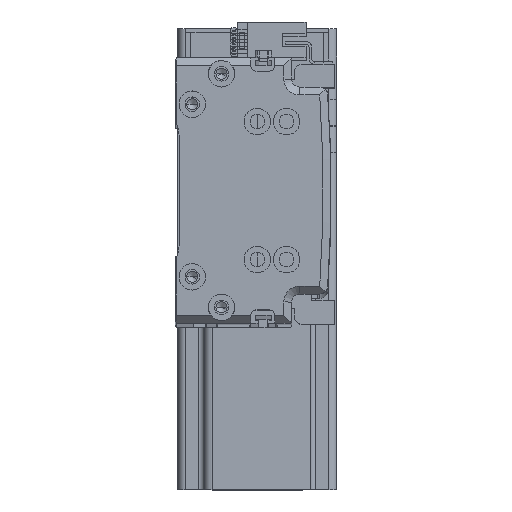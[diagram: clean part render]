
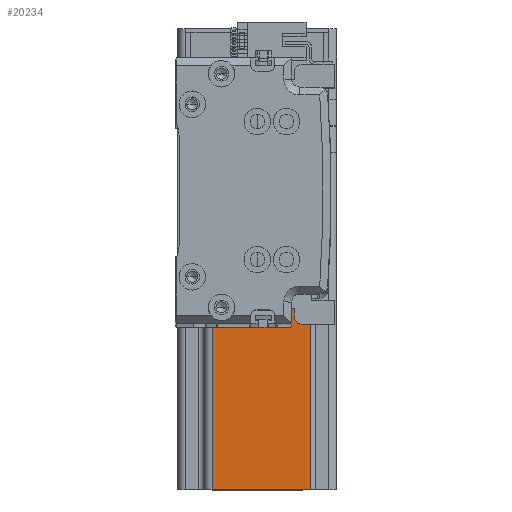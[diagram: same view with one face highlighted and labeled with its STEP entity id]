
A CAD part, top view. The second image highlights one B-rep face of the part: STEP entity #20234.
In plain terms, the highlighted planar face has unit normal (0, 0, 1) as drawn and (-1, 0, 0) by its records, which use the part's own axes.
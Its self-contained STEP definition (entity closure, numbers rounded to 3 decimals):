
#417 = LINE ( 'NONE', #1647, #20413 ) ;
#864 = EDGE_CURVE ( 'NONE', #5104, #26442, #15951, .T. ) ;
#1102 = VECTOR ( 'NONE', #12483, 1000. ) ;
#1307 = VERTEX_POINT ( 'NONE', #39444 ) ;
#1452 = PLANE ( 'NONE',  #21290 ) ;
#1647 = CARTESIAN_POINT ( 'NONE',  ( -30., 27., 137. ) ) ;
#1879 = ORIENTED_EDGE ( 'NONE', *, *, #33825, .T. ) ;
#2660 = EDGE_CURVE ( 'NONE', #26442, #4384, #33048, .T. ) ;
#3274 = DIRECTION ( 'NONE',  ( 0., 0., 1. ) ) ;
#3288 = VERTEX_POINT ( 'NONE', #26020 ) ;
#3856 = DIRECTION ( 'NONE',  ( 0., 1., 0. ) ) ;
#4384 = VERTEX_POINT ( 'NONE', #29023 ) ;
#4872 = ORIENTED_EDGE ( 'NONE', *, *, #6053, .T. ) ;
#5104 = VERTEX_POINT ( 'NONE', #38355 ) ;
#6053 = EDGE_CURVE ( 'NONE', #37098, #3288, #417, .T. ) ;
#9775 = VECTOR ( 'NONE', #21205, 1000. ) ;
#11327 = FACE_OUTER_BOUND ( 'NONE', #21457, .T. ) ;
#11633 = EDGE_CURVE ( 'NONE', #34575, #4384, #21709, .T. ) ;
#11664 = VECTOR ( 'NONE', #20240, 1000. ) ;
#12483 = DIRECTION ( 'NONE',  ( 0., -1., 0. ) ) ;
#15315 = CARTESIAN_POINT ( 'NONE',  ( -30., 20., 10. ) ) ;
#15951 = LINE ( 'NONE', #15315, #25366 ) ;
#16225 = CARTESIAN_POINT ( 'NONE',  ( -30., -30., 10. ) ) ;
#17187 = CARTESIAN_POINT ( 'NONE',  ( -30., -17., 137. ) ) ;
#17792 = CARTESIAN_POINT ( 'NONE',  ( -30., -17., 10. ) ) ;
#18497 = ORIENTED_EDGE ( 'NONE', *, *, #11633, .T. ) ;
#18533 = ORIENTED_EDGE ( 'NONE', *, *, #864, .F. ) ;
#19771 = ORIENTED_EDGE ( 'NONE', *, *, #51592, .T. ) ;
#20231 = CARTESIAN_POINT ( 'NONE',  ( -30., -27., 137. ) ) ;
#20234 = ADVANCED_FACE ( 'NONE', ( #11327 ), #1452, .F. ) ;
#20240 = DIRECTION ( 'NONE',  ( 0., -1., 0. ) ) ;
#20413 = VECTOR ( 'NONE', #29622, 1000. ) ;
#21205 = DIRECTION ( 'NONE',  ( 0., 0., 1. ) ) ;
#21290 = AXIS2_PLACEMENT_3D ( 'NONE', #45508, #21563, #49458 ) ;
#21457 = EDGE_LOOP ( 'NONE', ( #36343, #18497, #31567, #18533, #1879, #4872, #29077, #19771 ) ) ;
#21563 = DIRECTION ( 'NONE',  ( 1., 0., 0. ) ) ;
#21709 = LINE ( 'NONE', #17187, #9775 ) ;
#21786 = VERTEX_POINT ( 'NONE', #40260 ) ;
#22324 = LINE ( 'NONE', #16225, #11664 ) ;
#23779 = CARTESIAN_POINT ( 'NONE',  ( -30., -30., 0. ) ) ;
#24267 = DIRECTION ( 'NONE',  ( 0., 0., 1. ) ) ;
#25366 = VECTOR ( 'NONE', #3274, 1000. ) ;
#26020 = CARTESIAN_POINT ( 'NONE',  ( -30., 27., 0. ) ) ;
#26442 = VERTEX_POINT ( 'NONE', #27409 ) ;
#27409 = CARTESIAN_POINT ( 'NONE',  ( -30., 20., 137. ) ) ;
#29023 = CARTESIAN_POINT ( 'NONE',  ( -30., -17., 137. ) ) ;
#29077 = ORIENTED_EDGE ( 'NONE', *, *, #39328, .T. ) ;
#29117 = VECTOR ( 'NONE', #47678, 1000. ) ;
#29622 = DIRECTION ( 'NONE',  ( 0., 0., -1. ) ) ;
#31567 = ORIENTED_EDGE ( 'NONE', *, *, #2660, .F. ) ;
#32440 = CARTESIAN_POINT ( 'NONE',  ( -30., -30., 137. ) ) ;
#33048 = LINE ( 'NONE', #32440, #1102 ) ;
#33825 = EDGE_CURVE ( 'NONE', #5104, #37098, #38012, .T. ) ;
#34575 = VERTEX_POINT ( 'NONE', #17792 ) ;
#36343 = ORIENTED_EDGE ( 'NONE', *, *, #44726, .F. ) ;
#36672 = VECTOR ( 'NONE', #24267, 1000. ) ;
#36795 = VECTOR ( 'NONE', #3856, 1000. ) ;
#37014 = CARTESIAN_POINT ( 'NONE',  ( -30., 27., 10. ) ) ;
#37098 = VERTEX_POINT ( 'NONE', #37014 ) ;
#38012 = LINE ( 'NONE', #39893, #36795 ) ;
#38355 = CARTESIAN_POINT ( 'NONE',  ( -30., 20., 10. ) ) ;
#39178 = LINE ( 'NONE', #23779, #29117 ) ;
#39328 = EDGE_CURVE ( 'NONE', #3288, #1307, #39178, .T. ) ;
#39444 = CARTESIAN_POINT ( 'NONE',  ( -30., -27., 0. ) ) ;
#39893 = CARTESIAN_POINT ( 'NONE',  ( -30., 30., 10. ) ) ;
#40260 = CARTESIAN_POINT ( 'NONE',  ( -30., -27., 10. ) ) ;
#44726 = EDGE_CURVE ( 'NONE', #34575, #21786, #22324, .T. ) ;
#45508 = CARTESIAN_POINT ( 'NONE',  ( -30., -30., 137. ) ) ;
#47678 = DIRECTION ( 'NONE',  ( 0., -1., 0. ) ) ;
#48476 = LINE ( 'NONE', #20231, #36672 ) ;
#49458 = DIRECTION ( 'NONE',  ( 0., 0., -1. ) ) ;
#51592 = EDGE_CURVE ( 'NONE', #1307, #21786, #48476, .T. ) ;
